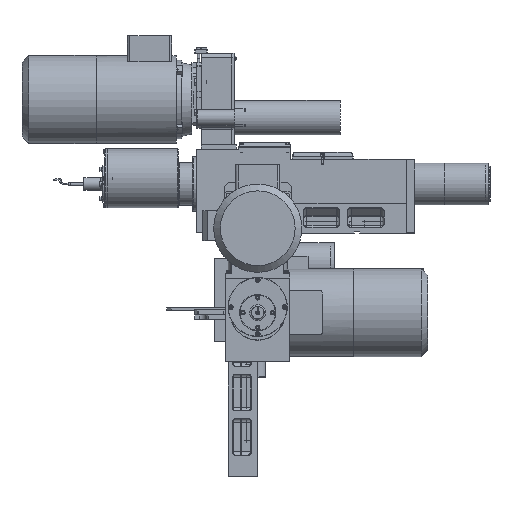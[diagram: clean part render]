
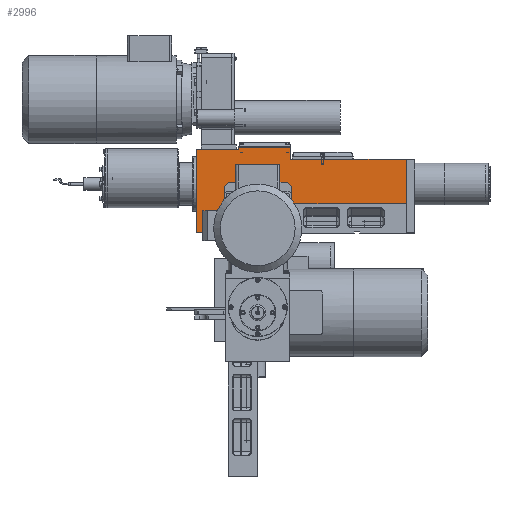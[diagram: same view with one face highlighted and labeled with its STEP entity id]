
A CAD part, front view. The second image highlights one B-rep face of the part: STEP entity #2996.
In plain terms, the highlighted planar face has unit normal (0, -1, 0).
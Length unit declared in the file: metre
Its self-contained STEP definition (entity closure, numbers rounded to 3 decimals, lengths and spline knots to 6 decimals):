
#2996 = ADVANCED_FACE( '', ( #4748 ), #4749, .T. );
#4748 = FACE_OUTER_BOUND( '', #9010, .T. );
#4749 = PLANE( '', #9011 );
#9010 = EDGE_LOOP( '', ( #14685, #14686, #14687, #14688, #14689, #14690, #14691, #14692, #14693, #14694 ) );
#9011 = AXIS2_PLACEMENT_3D( '', #14695, #14696, #14697 );
#14685 = ORIENTED_EDGE( '', *, *, #18892, .T. );
#14686 = ORIENTED_EDGE( '', *, *, #18891, .T. );
#14687 = ORIENTED_EDGE( '', *, *, #18889, .F. );
#14688 = ORIENTED_EDGE( '', *, *, #18881, .T. );
#14689 = ORIENTED_EDGE( '', *, *, #18897, .T. );
#14690 = ORIENTED_EDGE( '', *, *, #18898, .T. );
#14691 = ORIENTED_EDGE( '', *, *, #18899, .T. );
#14692 = ORIENTED_EDGE( '', *, *, #18900, .T. );
#14693 = ORIENTED_EDGE( '', *, *, #18895, .T. );
#14694 = ORIENTED_EDGE( '', *, *, #18901, .T. );
#14695 = CARTESIAN_POINT( '', ( 0.337, -0.003889, 0. ) );
#14696 = DIRECTION( '', ( 0., -1., 0. ) );
#14697 = DIRECTION( '', ( 1., 0., 0. ) );
#18881 = EDGE_CURVE( '', #21670, #21668, #21671, .T. );
#18889 = EDGE_CURVE( '', #21670, #21681, #21683, .T. );
#18891 = EDGE_CURVE( '', #21684, #21681, #21686, .T. );
#18892 = EDGE_CURVE( '', #21687, #21684, #21688, .T. );
#18895 = EDGE_CURVE( '', #21692, #21690, #21693, .T. );
#18897 = EDGE_CURVE( '', #21668, #21695, #21696, .T. );
#18898 = EDGE_CURVE( '', #21695, #21697, #21698, .T. );
#18899 = EDGE_CURVE( '', #21697, #21699, #21700, .T. );
#18900 = EDGE_CURVE( '', #21699, #21692, #21701, .T. );
#18901 = EDGE_CURVE( '', #21690, #21687, #21702, .T. );
#21668 = VERTEX_POINT( '', #27232 );
#21670 = VERTEX_POINT( '', #27235 );
#21671 = LINE( '', #27236, #27237 );
#21681 = VERTEX_POINT( '', #27253 );
#21683 = LINE( '', #27256, #27257 );
#21684 = VERTEX_POINT( '', #27258 );
#21686 = LINE( '', #27261, #27262 );
#21687 = VERTEX_POINT( '', #27263 );
#21688 = LINE( '', #27264, #27265 );
#21690 = VERTEX_POINT( '', #27268 );
#21692 = VERTEX_POINT( '', #27271 );
#21693 = LINE( '', #27272, #27273 );
#21695 = VERTEX_POINT( '', #27276 );
#21696 = LINE( '', #27277, #27278 );
#21697 = VERTEX_POINT( '', #27279 );
#21698 = LINE( '', #27280, #27281 );
#21699 = VERTEX_POINT( '', #27282 );
#21700 = LINE( '', #27283, #27284 );
#21701 = LINE( '', #27285, #27286 );
#21702 = LINE( '', #27287, #27288 );
#27232 = CARTESIAN_POINT( '', ( -0.005, -0.003889, 0. ) );
#27235 = CARTESIAN_POINT( '', ( -0.005, -0.003889, -0.059 ) );
#27236 = CARTESIAN_POINT( '', ( -0.005, -0.003889, -0.059 ) );
#27237 = VECTOR( '', #31041, 1. );
#27253 = CARTESIAN_POINT( '', ( -0.088, -0.003889, -0.059 ) );
#27256 = CARTESIAN_POINT( '', ( -0.005, -0.003889, -0.059 ) );
#27257 = VECTOR( '', #31049, 1. );
#27258 = CARTESIAN_POINT( '', ( -0.088, -0.003889, 0.11 ) );
#27261 = CARTESIAN_POINT( '', ( -0.088, -0.003889, -0.059 ) );
#27262 = VECTOR( '', #31051, 1. );
#27263 = CARTESIAN_POINT( '', ( -0.003, -0.003889, 0.11 ) );
#27264 = CARTESIAN_POINT( '', ( 0.14575, -0.003889, 0.11 ) );
#27265 = VECTOR( '', #31052, 1. );
#27268 = CARTESIAN_POINT( '', ( -0.003, -0.003889, 0.115 ) );
#27271 = CARTESIAN_POINT( '', ( 0.102, -0.003889, 0.115 ) );
#27272 = CARTESIAN_POINT( '', ( -0.005, -0.003889, 0.115 ) );
#27273 = VECTOR( '', #31055, 1. );
#27276 = CARTESIAN_POINT( '', ( 0.337, -0.003889, 0. ) );
#27277 = CARTESIAN_POINT( '', ( -0.005, -0.003889, 0. ) );
#27278 = VECTOR( '', #31057, 1. );
#27279 = CARTESIAN_POINT( '', ( 0.337, -0.003889, 0.09 ) );
#27280 = CARTESIAN_POINT( '', ( 0.337, -0.003889, 0. ) );
#27281 = VECTOR( '', #31058, 1. );
#27282 = CARTESIAN_POINT( '', ( 0.102, -0.003889, 0.09 ) );
#27283 = CARTESIAN_POINT( '', ( -0.005, -0.003889, 0.09 ) );
#27284 = VECTOR( '', #31059, 1. );
#27285 = CARTESIAN_POINT( '', ( 0.102, -0.003889, 0.09 ) );
#27286 = VECTOR( '', #31060, 1. );
#27287 = CARTESIAN_POINT( '', ( -0.003, -0.003889, 0.058735 ) );
#27288 = VECTOR( '', #31061, 1. );
#31041 = DIRECTION( '', ( 0., 0., 1. ) );
#31049 = DIRECTION( '', ( -1., 0., 0. ) );
#31051 = DIRECTION( '', ( 0., 0., -1. ) );
#31052 = DIRECTION( '', ( -1., 0., 0. ) );
#31055 = DIRECTION( '', ( -1., 0., 0. ) );
#31057 = DIRECTION( '', ( 1., 0., 0. ) );
#31058 = DIRECTION( '', ( 0., 0., 1. ) );
#31059 = DIRECTION( '', ( -1., 0., 0. ) );
#31060 = DIRECTION( '', ( 0., 0., 1. ) );
#31061 = DIRECTION( '', ( 0., 0., -1. ) );
